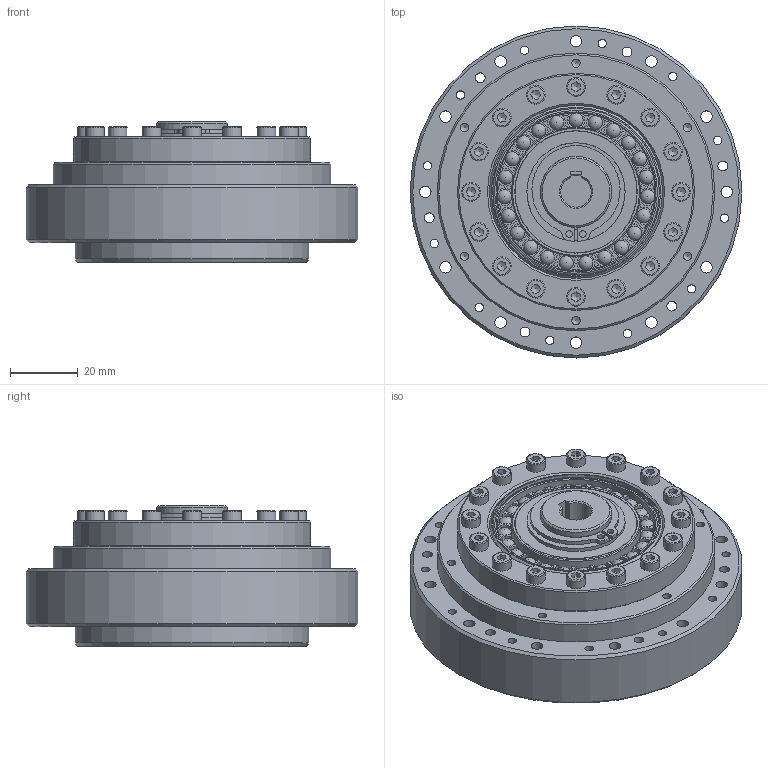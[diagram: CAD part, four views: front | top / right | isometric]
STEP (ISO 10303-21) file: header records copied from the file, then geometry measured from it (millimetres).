
FILE_DESCRIPTION(/* description */ (''),/* implementation_level */ '2;1');
FILE_NAME(/* name */ 'C:\Users\yin210\Desktop\CPU\20\DSC-20-PO-M.stp',/* time_stamp */ '2022-05-16T17:01:18+08:00',/* author */ ('yin210'),/* organization */ (''),/* preprocessor_version */ 'ST-DEVELOPER v15.2',/* originating_system */ 'Autodesk Inventor 2014',/* authorisation */ '');
FILE_SCHEMA (('AUTOMOTIVE_DESIGN { 1 0 10303 214 3 1 1 }'));
Length unit declared in the file: centimetre
Products named in the file (1): DSC-20-PO-M
Bounding box: 98 x 98 x 41.5 mm (x, y, z)
Volume: 182547.2 mm3; surface area: 44706.9 mm2
Topology: 1 solids, 5 shells, 592 faces, 1471 edges, 969 vertices
Faces by surface type: plane 245, cylinder 213, cone 77, torus 34, sphere 23
Full cylindrical faces by diameter (mm): 2 x2, 2.459 x18, 2.9 x6, 3 x4, 3.242 x12, 3.4 x12, 4.134 x8, 5.5 x22, 8.5 x8, 10 x1, 14 x1, 20 x1, 21 x2, 22.1 x1, 29 x1, 34 x1, 36 x2, 38.15 x1, 46 x1, 46.64 x1, 49.05 x1, 49.07 x1, 54 x1, 69 x1, 70 x1, 82 x1, 98 x1
Entity records: 15567 total; most frequent: CARTESIAN_POINT 2787, DIRECTION 2638, ORIENTED_EDGE 2156, AXIS2_PLACEMENT_3D 1115, EDGE_CURVE 1078, EDGE_LOOP 976, VERTEX_POINT 820, ADVANCED_FACE 592
